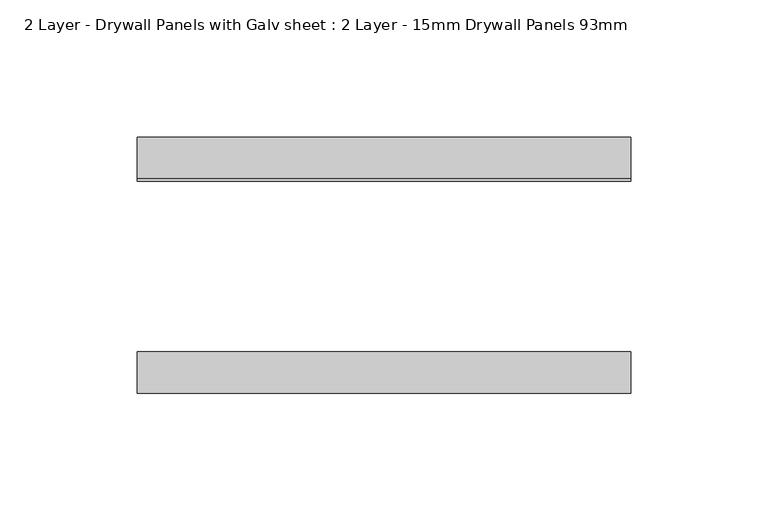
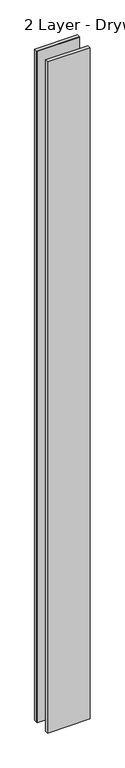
"""IFC4 building model written with IfcOpenShell, lengths in millimetres: plate geometry, 2 Layer - Drywall Panels with Galv sheet : 2 Layer - 15mm Drywall Panels 93mm."""

from ifc_helpers import new_model, si_unit, origin, origin_with_axes, place, context, project, spatial, polyline, outline, extrude, source, transform, mapped, element, save


def plate_2_layer_drywall_panels_with_galv_sheet_2_layer_15mm_db85e073(model_context):
    return source(origin(), model_context, "Body", "SweptSolid", [
        extrude(outline(polyline([(89.6999998, 31.5), (89.6999998, 30.5), (-89.6999998, 30.5), (-89.6999998, 31.5), (89.6999998, 31.5)])), origin_with_axes(), (0.0, 0.0, 1.0), 2979.4),
        extrude(outline(polyline([(89.6999998, 31.5), (-89.6999998, 31.5), (-89.6999998, 46.5), (89.6999998, 46.5), (89.6999998, 31.5)])), origin_with_axes(), (0.0, 0.0, 1.0), 2979.4),
        extrude(outline(polyline([(89.6999998, -31.5), (89.6999998, -46.5), (-89.6999998, -46.5), (-89.6999998, -31.5), (89.6999998, -31.5)])), origin_with_axes(), (0.0, 0.0, 1.0), 2979.4),
    ])


if __name__ == "__main__":
    model = new_model("IFC4")
    model_context = context("Model", 3, world=origin())
    ifc_project = project(units=[si_unit("LENGTHUNIT", "METRE", prefix="MILLI")], contexts=[model_context])
    site = spatial("IfcSite", under=ifc_project)
    building = spatial("IfcBuilding", under=site)
    placement = place(None, origin())
    plate_2_layer_drywall_panels_with_galv_sheet_2_layer_15mm_shape = plate_2_layer_drywall_panels_with_galv_sheet_2_layer_15mm_db85e073(model_context)
    element("IfcPlate", 1, ObjectType="2 Layer - Drywall Panels with Galv sheet : 2 Layer - 15mm Drywall Panels 93mm", at=placement, inside=building, context=model_context, shape_type="MappedRepresentation", body=[
        mapped(plate_2_layer_drywall_panels_with_galv_sheet_2_layer_15mm_shape, transform((0.0, 0.0, 0.0), x_axis=(1.0, 0.0, 0.0), y_axis=(0.0, 1.0, 0.0), z_axis=(0.0, 0.0, 1.0))),
    ])
    save(model, "model.ifc")
